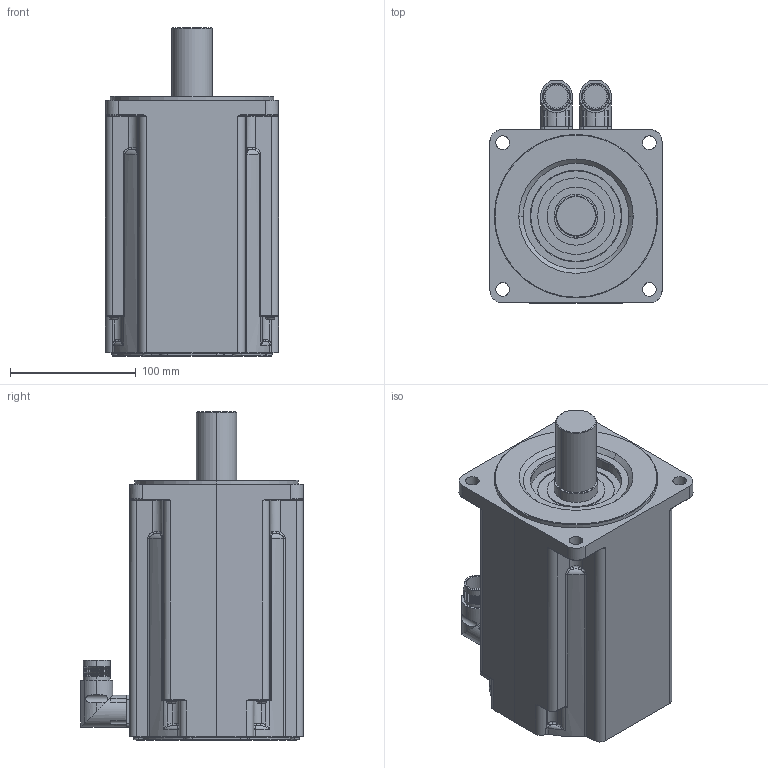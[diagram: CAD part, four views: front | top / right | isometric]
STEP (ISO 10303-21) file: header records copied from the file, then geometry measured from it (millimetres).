
FILE_DESCRIPTION (( 'STEP AP214' ), '1' );
FILE_NAME ('MR7764-Ux-Nxx-G01-A0D-M0-P0.stp', '2009-04-08T13:46:00', ( 'SysAdmin' ), ( 'SolidWorks' ), 'SwSTEP 2.0', 'SolidWorks 2009', '' );
FILE_SCHEMA (( 'AUTOMOTIVE_DESIGN' ));
Length unit declared in the file: millimetre
Products named in the file (1): MR7764-Ux-Nxx-G01-A0D-M0-P0
Bounding box: 138 x 177 x 261.7 mm (x, y, z)
Volume: 3443272.1 mm3; surface area: 163619.6 mm2
Topology: 1 solids, 1 shells, 628 faces, 1528 edges, 904 vertices
Faces by surface type: cylinder 206, cone 118, plane 116, bspline 116, torus 72
Entity records: 29687 total; most frequent: CARTESIAN_POINT 9015, ORIENTED_EDGE 3008, DIRECTION 2808, EDGE_CURVE 1504, AXIS2_PLACEMENT_3D 1207, VERTEX_POINT 904, CIRCLE 694, EDGE_LOOP 662
